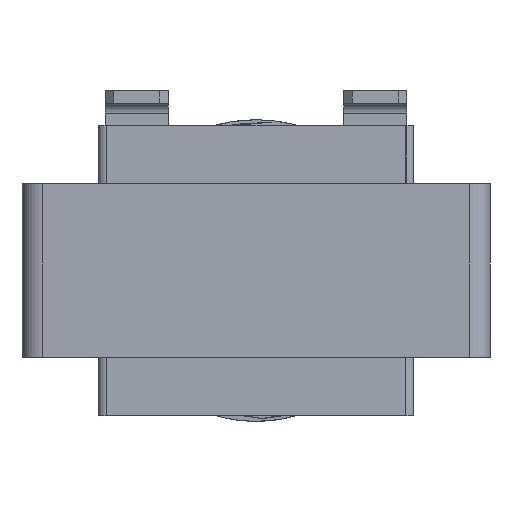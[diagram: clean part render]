
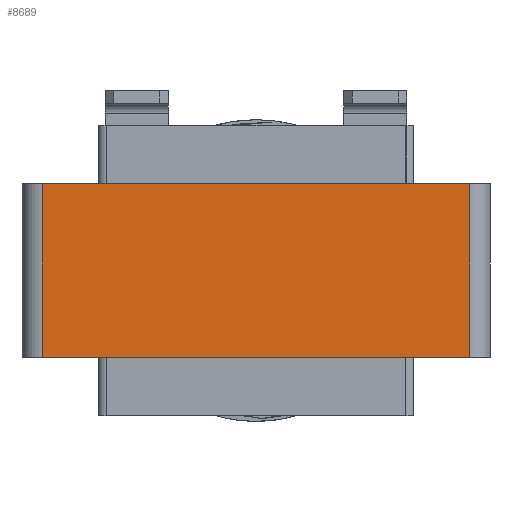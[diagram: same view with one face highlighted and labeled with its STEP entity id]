
A CAD part, front view. The second image highlights one B-rep face of the part: STEP entity #8689.
In plain terms, the highlighted planar face has unit normal (0, -1, 0).
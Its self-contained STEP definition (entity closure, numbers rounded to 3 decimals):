
#140 = CARTESIAN_POINT ( 'NONE',  ( 25.43, -10.691, -10.3 ) ) ;
#216 = VECTOR ( 'NONE', #13223, 1000. ) ;
#270 = VERTEX_POINT ( 'NONE', #14596 ) ;
#529 = DIRECTION ( 'NONE',  ( 0., 1., 0. ) ) ;
#1144 = DIRECTION ( 'NONE',  ( 0., 0., -1. ) ) ;
#1164 = CARTESIAN_POINT ( 'NONE',  ( -25.43, -10.691, 10.3 ) ) ;
#2071 = PLANE ( 'NONE',  #12236 ) ;
#2341 = VERTEX_POINT ( 'NONE', #1164 ) ;
#2764 = EDGE_CURVE ( 'NONE', #2341, #270, #17148, .T. ) ;
#2836 = LINE ( 'NONE', #5722, #216 ) ;
#3093 = VERTEX_POINT ( 'NONE', #140 ) ;
#4028 = VECTOR ( 'NONE', #1144, 1000. ) ;
#4210 = VERTEX_POINT ( 'NONE', #6558 ) ;
#5713 = ORIENTED_EDGE ( 'NONE', *, *, #16851, .F. ) ;
#5722 = CARTESIAN_POINT ( 'NONE',  ( -25.43, -10.691, 10.3 ) ) ;
#5818 = CARTESIAN_POINT ( 'NONE',  ( 25.43, -10.691, 10.3 ) ) ;
#6558 = CARTESIAN_POINT ( 'NONE',  ( 25.43, -10.691, 10.3 ) ) ;
#7983 = VECTOR ( 'NONE', #12544, 1000. ) ;
#8048 = DIRECTION ( 'NONE',  ( 0., 0., 1. ) ) ;
#8625 = DIRECTION ( 'NONE',  ( 0., 0., -1. ) ) ;
#8689 = ADVANCED_FACE ( 'NONE', ( #11598 ), #2071, .F. ) ;
#8745 = VECTOR ( 'NONE', #8625, 1000. ) ;
#9810 = ORIENTED_EDGE ( 'NONE', *, *, #2764, .T. ) ;
#11194 = CARTESIAN_POINT ( 'NONE',  ( -25.43, -10.691, -10.3 ) ) ;
#11598 = FACE_OUTER_BOUND ( 'NONE', #11856, .T. ) ;
#11856 = EDGE_LOOP ( 'NONE', ( #18097, #15768, #5713, #9810 ) ) ;
#12236 = AXIS2_PLACEMENT_3D ( 'NONE', #12461, #529, #8048 ) ;
#12461 = CARTESIAN_POINT ( 'NONE',  ( -25.43, -10.691, 10.3 ) ) ;
#12544 = DIRECTION ( 'NONE',  ( 1., 0., 0. ) ) ;
#13223 = DIRECTION ( 'NONE',  ( 1., 0., 0. ) ) ;
#14419 = EDGE_CURVE ( 'NONE', #270, #3093, #17522, .T. ) ;
#14596 = CARTESIAN_POINT ( 'NONE',  ( -25.43, -10.691, -10.3 ) ) ;
#15768 = ORIENTED_EDGE ( 'NONE', *, *, #17866, .F. ) ;
#16383 = LINE ( 'NONE', #5818, #8745 ) ;
#16413 = CARTESIAN_POINT ( 'NONE',  ( -25.43, -10.691, 10.3 ) ) ;
#16851 = EDGE_CURVE ( 'NONE', #2341, #4210, #2836, .T. ) ;
#17148 = LINE ( 'NONE', #16413, #4028 ) ;
#17522 = LINE ( 'NONE', #11194, #7983 ) ;
#17866 = EDGE_CURVE ( 'NONE', #4210, #3093, #16383, .T. ) ;
#18097 = ORIENTED_EDGE ( 'NONE', *, *, #14419, .T. ) ;
